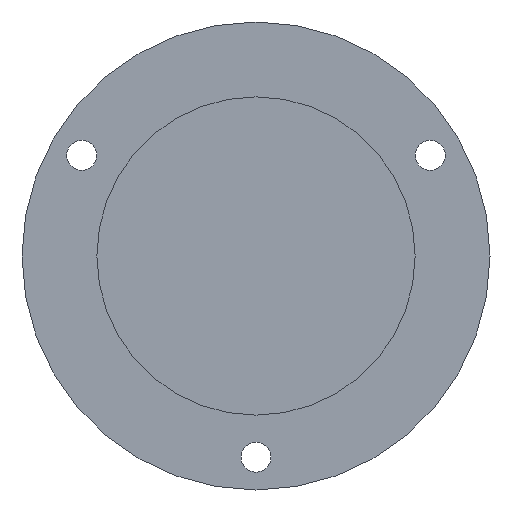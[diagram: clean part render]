
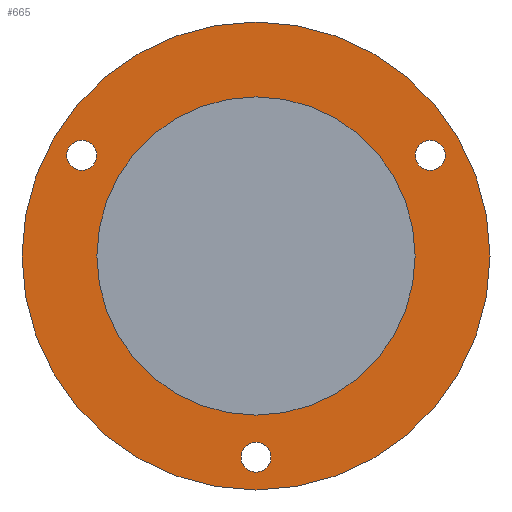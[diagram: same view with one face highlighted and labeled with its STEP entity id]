
A CAD part, front view. The second image highlights one B-rep face of the part: STEP entity #665.
In plain terms, the highlighted planar face has unit normal (0, -1, 0).
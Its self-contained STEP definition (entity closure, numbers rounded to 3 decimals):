
#25 = CARTESIAN_POINT ( 'NONE',  ( 20.22, 10., 10.75 ) ) ;
#40 = EDGE_CURVE ( 'NONE', #217, #146, #629, .T. ) ;
#45 = AXIS2_PLACEMENT_3D ( 'NONE', #368, #237, #172 ) ;
#53 = FACE_OUTER_BOUND ( 'NONE', #421, .T. ) ;
#55 = EDGE_CURVE ( 'NONE', #852, #392, #431, .T. ) ;
#60 = AXIS2_PLACEMENT_3D ( 'NONE', #193, #866, #259 ) ;
#66 = ORIENTED_EDGE ( 'NONE', *, *, #776, .T. ) ;
#80 = EDGE_LOOP ( 'NONE', ( #141, #233 ) ) ;
#101 = EDGE_LOOP ( 'NONE', ( #66, #218 ) ) ;
#120 = CIRCLE ( 'NONE', #238, 25. ) ;
#130 = FACE_BOUND ( 'NONE', #203, .T. ) ;
#141 = ORIENTED_EDGE ( 'NONE', *, *, #191, .F. ) ;
#146 = VERTEX_POINT ( 'NONE', #312 ) ;
#152 = CIRCLE ( 'NONE', #860, 1.6 ) ;
#162 = DIRECTION ( 'NONE',  ( -1., 0., 0. ) ) ;
#167 = AXIS2_PLACEMENT_3D ( 'NONE', #744, #336, #270 ) ;
#170 = VERTEX_POINT ( 'NONE', #25 ) ;
#172 = DIRECTION ( 'NONE',  ( 1., 0., 0. ) ) ;
#180 = ORIENTED_EDGE ( 'NONE', *, *, #55, .T. ) ;
#186 = EDGE_CURVE ( 'NONE', #146, #217, #414, .T. ) ;
#191 = EDGE_CURVE ( 'NONE', #221, #700, #485, .T. ) ;
#193 = CARTESIAN_POINT ( 'NONE',  ( -18.62, 10., 10.75 ) ) ;
#203 = EDGE_LOOP ( 'NONE', ( #615, #243 ) ) ;
#207 = AXIS2_PLACEMENT_3D ( 'NONE', #546, #766, #478 ) ;
#217 = VERTEX_POINT ( 'NONE', #875 ) ;
#218 = ORIENTED_EDGE ( 'NONE', *, *, #322, .T. ) ;
#221 = VERTEX_POINT ( 'NONE', #740 ) ;
#224 = CARTESIAN_POINT ( 'NONE',  ( 0., 10., 0. ) ) ;
#233 = ORIENTED_EDGE ( 'NONE', *, *, #412, .F. ) ;
#237 = DIRECTION ( 'NONE',  ( 0., -1., 0. ) ) ;
#238 = AXIS2_PLACEMENT_3D ( 'NONE', #320, #530, #797 ) ;
#242 = CARTESIAN_POINT ( 'NONE',  ( 0., 10., -21.5 ) ) ;
#243 = ORIENTED_EDGE ( 'NONE', *, *, #864, .T. ) ;
#248 = FACE_BOUND ( 'NONE', #80, .T. ) ;
#254 = ORIENTED_EDGE ( 'NONE', *, *, #186, .T. ) ;
#255 = FACE_BOUND ( 'NONE', #751, .T. ) ;
#256 = DIRECTION ( 'NONE',  ( -1., 0., 0. ) ) ;
#259 = DIRECTION ( 'NONE',  ( -1., 0., 0. ) ) ;
#270 = DIRECTION ( 'NONE',  ( 1., 0., 0. ) ) ;
#282 = DIRECTION ( 'NONE',  ( 0., 1., 0. ) ) ;
#304 = CARTESIAN_POINT ( 'NONE',  ( -18.62, 10., 10.75 ) ) ;
#312 = CARTESIAN_POINT ( 'NONE',  ( 0., 10., -23.1 ) ) ;
#320 = CARTESIAN_POINT ( 'NONE',  ( 0., 10., 0. ) ) ;
#322 = EDGE_CURVE ( 'NONE', #170, #878, #745, .T. ) ;
#323 = CARTESIAN_POINT ( 'NONE',  ( -17., 10., 0. ) ) ;
#324 = EDGE_CURVE ( 'NONE', #867, #847, #857, .T. ) ;
#329 = AXIS2_PLACEMENT_3D ( 'NONE', #242, #846, #713 ) ;
#336 = DIRECTION ( 'NONE',  ( 0., -1., 0. ) ) ;
#368 = CARTESIAN_POINT ( 'NONE',  ( 0., 10., 0. ) ) ;
#382 = DIRECTION ( 'NONE',  ( -1., 0., 0. ) ) ;
#392 = VERTEX_POINT ( 'NONE', #810 ) ;
#411 = ORIENTED_EDGE ( 'NONE', *, *, #639, .T. ) ;
#412 = EDGE_CURVE ( 'NONE', #700, #221, #542, .T. ) ;
#414 = CIRCLE ( 'NONE', #329, 1.6 ) ;
#421 = EDGE_LOOP ( 'NONE', ( #411, #180 ) ) ;
#431 = CIRCLE ( 'NONE', #657, 25. ) ;
#440 = DIRECTION ( 'NONE',  ( 0., 1., 0. ) ) ;
#471 = CARTESIAN_POINT ( 'NONE',  ( -17.02, 10., 10.75 ) ) ;
#478 = DIRECTION ( 'NONE',  ( -1., 0., 0. ) ) ;
#481 = CARTESIAN_POINT ( 'NONE',  ( 18.62, 10., 10.75 ) ) ;
#485 = CIRCLE ( 'NONE', #45, 17. ) ;
#495 = ORIENTED_EDGE ( 'NONE', *, *, #40, .T. ) ;
#521 = FACE_BOUND ( 'NONE', #101, .T. ) ;
#530 = DIRECTION ( 'NONE',  ( 0., -1., 0. ) ) ;
#542 = CIRCLE ( 'NONE', #167, 17. ) ;
#544 = CIRCLE ( 'NONE', #762, 1.6 ) ;
#546 = CARTESIAN_POINT ( 'NONE',  ( 0., 10., -21.5 ) ) ;
#549 = DIRECTION ( 'NONE',  ( -1., 0., 0. ) ) ;
#577 = DIRECTION ( 'NONE',  ( 1., 0., 0. ) ) ;
#586 = CARTESIAN_POINT ( 'NONE',  ( -17., 10., 0. ) ) ;
#615 = ORIENTED_EDGE ( 'NONE', *, *, #324, .T. ) ;
#629 = CIRCLE ( 'NONE', #207, 1.6 ) ;
#634 = AXIS2_PLACEMENT_3D ( 'NONE', #586, #793, #382 ) ;
#639 = EDGE_CURVE ( 'NONE', #392, #852, #120, .T. ) ;
#657 = AXIS2_PLACEMENT_3D ( 'NONE', #224, #770, #577 ) ;
#665 = ADVANCED_FACE ( 'NONE', ( #130, #521, #255, #248, #53 ), #795, .F. ) ;
#700 = VERTEX_POINT ( 'NONE', #323 ) ;
#703 = CARTESIAN_POINT ( 'NONE',  ( -20.22, 10., 10.75 ) ) ;
#713 = DIRECTION ( 'NONE',  ( -1., 0., 0. ) ) ;
#740 = CARTESIAN_POINT ( 'NONE',  ( 17., 10., 0. ) ) ;
#744 = CARTESIAN_POINT ( 'NONE',  ( 0., 10., 0. ) ) ;
#745 = CIRCLE ( 'NONE', #759, 1.6 ) ;
#749 = CARTESIAN_POINT ( 'NONE',  ( -25., 10., 0. ) ) ;
#751 = EDGE_LOOP ( 'NONE', ( #495, #254 ) ) ;
#759 = AXIS2_PLACEMENT_3D ( 'NONE', #803, #863, #256 ) ;
#762 = AXIS2_PLACEMENT_3D ( 'NONE', #481, #282, #549 ) ;
#766 = DIRECTION ( 'NONE',  ( 0., 1., 0. ) ) ;
#768 = CARTESIAN_POINT ( 'NONE',  ( 17.02, 10., 10.75 ) ) ;
#770 = DIRECTION ( 'NONE',  ( 0., -1., 0. ) ) ;
#776 = EDGE_CURVE ( 'NONE', #878, #170, #544, .T. ) ;
#793 = DIRECTION ( 'NONE',  ( 0., 1., 0. ) ) ;
#795 = PLANE ( 'NONE',  #634 ) ;
#797 = DIRECTION ( 'NONE',  ( 1., 0., 0. ) ) ;
#803 = CARTESIAN_POINT ( 'NONE',  ( 18.62, 10., 10.75 ) ) ;
#810 = CARTESIAN_POINT ( 'NONE',  ( 25., 10., 0. ) ) ;
#846 = DIRECTION ( 'NONE',  ( 0., 1., 0. ) ) ;
#847 = VERTEX_POINT ( 'NONE', #471 ) ;
#852 = VERTEX_POINT ( 'NONE', #749 ) ;
#857 = CIRCLE ( 'NONE', #60, 1.6 ) ;
#860 = AXIS2_PLACEMENT_3D ( 'NONE', #304, #440, #162 ) ;
#863 = DIRECTION ( 'NONE',  ( 0., 1., 0. ) ) ;
#864 = EDGE_CURVE ( 'NONE', #847, #867, #152, .T. ) ;
#866 = DIRECTION ( 'NONE',  ( 0., 1., 0. ) ) ;
#867 = VERTEX_POINT ( 'NONE', #703 ) ;
#875 = CARTESIAN_POINT ( 'NONE',  ( 0., 10., -19.9 ) ) ;
#878 = VERTEX_POINT ( 'NONE', #768 ) ;
